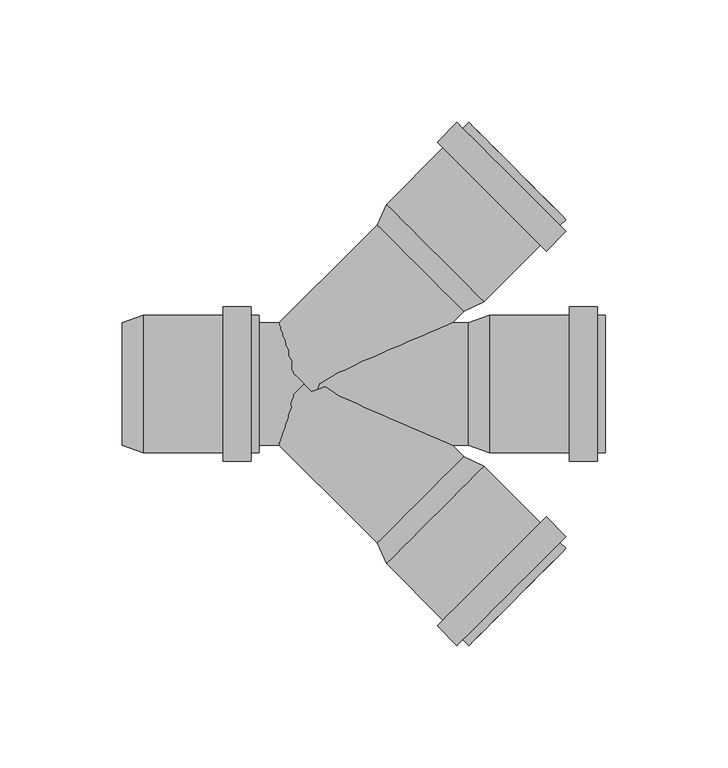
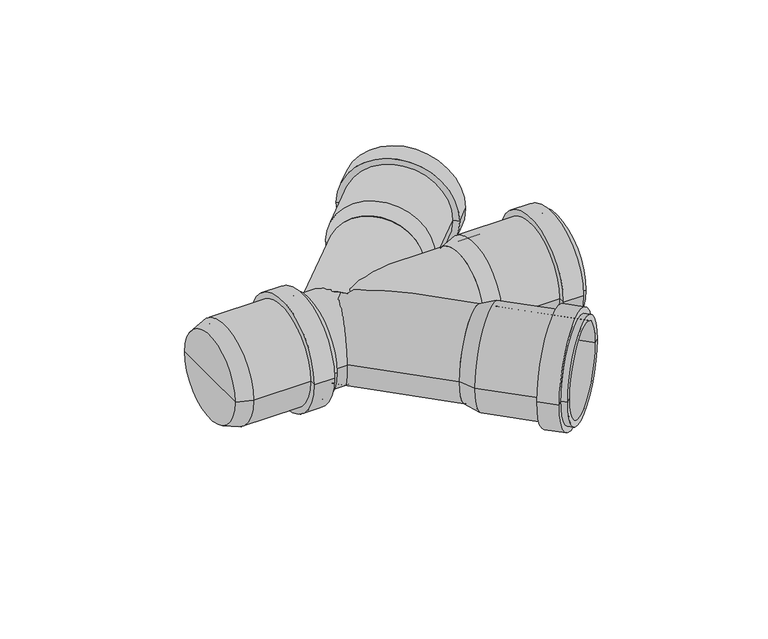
"""IFC4 building model written with IfcOpenShell, lengths in millimetres: pipe fitting geometry, pf_HTDA : pf_HTDA."""

from ifc_helpers import new_model, si_unit, point, frame, origin, origin_2d, place, context, project, spatial, polyline, circle_curve, trimmed, segment, composite_curve, outline, extrude, source, transform, mapped, element, save
from ifc_brep_helpers import plane_surface, cylinder_surface, revolved_surface, advanced_brep


def pipe_fitting_60c93445(model_context):
    return source(origin(), model_context, "Body", "SolidModel", [
        advanced_brep(
        [(65.1245345, 29.7691955, 0.0), (29.7691955, 65.1245345, 0.0), (33.5875721, 73.3269732, 0.0), (73.3269732, 33.5875721, 0.0), (47.446865, 47.446865, 0.0), (106.9145453, 67.1751442, 0.0), (67.1751442, 106.9145453, 0.0), (69.3671752, 104.7225143, 0.0), (104.7225143, 69.3671752, 0.0), (104.5103823, 64.7709812, 0.0), (64.7709812, 104.5103823, 0.0), (106.9145453, 62.3668181, 0.0), (62.3668181, 106.9145453, 0.0), (98.853528, 54.3058008, 0.0), (54.3058008, 98.853528, 0.0), (96.449365, 56.7099639, 0.0), (56.7099639, 96.449365, 0.0), (71.1349422, 35.7796031, 0.0), (35.7796031, 71.1349422, 0.0), (53.4572727, 53.4572727, 0.0)],
        [
            (0, 1, circle_curve(frame((47.446865, 47.446865, 0.0), z_axis=(0.707106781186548, 0.707106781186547, 0.0), x_axis=(-0.707106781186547, 0.707106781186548, 0.0)), 25.0)),
            (1, 2),
            (2, 3, circle_curve(frame((53.4572727, 53.4572727, 0.0), z_axis=(-0.707106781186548, -0.707106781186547, 0.0), x_axis=(-0.707106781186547, 0.707106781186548, 0.0)), 28.1)),
            (3, 0),
            (1, 0, circle_curve(frame((47.446865, 47.446865, 0.0), z_axis=(0.707106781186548, 0.707106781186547, 0.0), x_axis=(-0.707106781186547, 0.707106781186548, 0.0)), 25.0)),
            (3, 2, circle_curve(frame((53.4572727, 53.4572727, 0.0), z_axis=(-0.707106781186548, -0.707106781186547, 0.0), x_axis=(-0.707106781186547, 0.707106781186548, 0.0)), 28.1)),
            (4, 1),
            (0, 4),
            (5, 6, circle_curve(frame((87.0448448, 87.0448448, 0.0), z_axis=(0.707106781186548, 0.707106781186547, 0.0), x_axis=(-0.707106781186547, 0.707106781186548, 0.0)), 28.1)),
            (6, 7),
            (7, 8, circle_curve(frame((87.0448448, 87.0448448, 0.0), z_axis=(-0.707106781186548, -0.707106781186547, 0.0), x_axis=(-0.707106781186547, 0.707106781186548, 0.0)), 25.0)),
            (8, 5),
            (6, 5, circle_curve(frame((87.0448448, 87.0448448, 0.0), z_axis=(0.707106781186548, 0.707106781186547, 0.0), x_axis=(-0.707106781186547, 0.707106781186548, 0.0)), 28.1)),
            (8, 7, circle_curve(frame((87.0448448, 87.0448448, 0.0), z_axis=(-0.707106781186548, -0.707106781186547, 0.0), x_axis=(-0.707106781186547, 0.707106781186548, 0.0)), 25.0)),
            (9, 10, circle_curve(frame((84.6406817, 84.6406817, 0.0), z_axis=(0.707106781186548, 0.707106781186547, 0.0), x_axis=(-0.707106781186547, 0.707106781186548, 0.0)), 28.1)),
            (10, 6),
            (5, 9),
            (10, 9, circle_curve(frame((84.6406817, 84.6406817, 0.0), z_axis=(0.707106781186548, 0.707106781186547, 0.0), x_axis=(-0.707106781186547, 0.707106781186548, 0.0)), 28.1)),
            (11, 12, circle_curve(frame((84.6406817, 84.6406817, 0.0), z_axis=(0.707106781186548, 0.707106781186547, 0.0), x_axis=(-0.707106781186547, 0.707106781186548, 0.0)), 31.5)),
            (12, 10),
            (9, 11),
            (12, 11, circle_curve(frame((84.6406817, 84.6406817, 0.0), z_axis=(0.707106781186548, 0.707106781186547, 0.0), x_axis=(-0.707106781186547, 0.707106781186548, 0.0)), 31.5)),
            (13, 14, circle_curve(frame((76.5796644, 76.5796644, 0.0), z_axis=(0.707106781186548, 0.707106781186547, 0.0), x_axis=(-0.707106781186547, 0.707106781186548, 0.0)), 31.5)),
            (14, 12),
            (11, 13),
            (14, 13, circle_curve(frame((76.5796644, 76.5796644, 0.0), z_axis=(0.707106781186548, 0.707106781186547, 0.0), x_axis=(-0.707106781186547, 0.707106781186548, 0.0)), 31.5)),
            (15, 16, circle_curve(frame((76.5796644, 76.5796644, 0.0), z_axis=(0.707106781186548, 0.707106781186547, 0.0), x_axis=(-0.707106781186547, 0.707106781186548, 0.0)), 28.1)),
            (16, 14),
            (13, 15),
            (16, 15, circle_curve(frame((76.5796644, 76.5796644, 0.0), z_axis=(0.707106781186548, 0.707106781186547, 0.0), x_axis=(-0.707106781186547, 0.707106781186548, 0.0)), 28.1)),
            (2, 16),
            (15, 3),
            (17, 18, circle_curve(frame((53.4572727, 53.4572727, 0.0), z_axis=(0.707106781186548, 0.707106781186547, 0.0), x_axis=(-0.707106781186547, 0.707106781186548, 0.0)), 25.0)),
            (18, 19),
            (19, 17),
            (18, 17, circle_curve(frame((53.4572727, 53.4572727, 0.0), z_axis=(0.707106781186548, 0.707106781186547, 0.0), x_axis=(-0.707106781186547, 0.707106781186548, 0.0)), 25.0)),
            (7, 18),
            (17, 8),
        ],
        [
            revolved_surface(polyline([(33.5875721, 73.3269732, 0.0), (29.7691955, 65.1245345, 0.0)]), (47.446865, 47.446865, 0.0), (-0.707106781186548, -0.707106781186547, 0.0)),
            plane_surface(frame((47.446865, 47.446865, 0.0), z_axis=(-0.707106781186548, -0.707106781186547, 0.0), x_axis=(-0.707106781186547, 0.707106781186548, 0.0))),
            plane_surface(frame((87.0448448, 87.0448448, 0.0), z_axis=(0.707106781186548, 0.707106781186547, 0.0), x_axis=(-0.707106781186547, 0.707106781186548, 0.0))),
            cylinder_surface(frame((47.446865, 47.446865, 0.0), z_axis=(-0.707106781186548, -0.707106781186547, 0.0), x_axis=(-0.707106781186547, 0.707106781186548, 0.0)), 28.1),
            plane_surface(frame((84.6406817, 84.6406817, 0.0), z_axis=(0.707106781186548, 0.707106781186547, 0.0), x_axis=(-0.707106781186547, 0.707106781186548, 0.0))),
            cylinder_surface(frame((47.446865, 47.446865, 0.0), z_axis=(-0.707106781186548, -0.707106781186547, 0.0), x_axis=(-0.707106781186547, 0.707106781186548, 0.0)), 31.5),
            plane_surface(frame((76.5796644, 76.5796644, 0.0), z_axis=(-0.707106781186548, -0.707106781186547, 0.0), x_axis=(-0.707106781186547, 0.707106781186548, 0.0))),
            plane_surface(frame((53.4572727, 53.4572727, 0.0), z_axis=(0.707106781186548, 0.707106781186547, 0.0), x_axis=(-0.707106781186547, 0.707106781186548, 0.0))),
            revolved_surface(polyline([(35.77960312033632, 71.13494217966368, 0.0), (69.36717527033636, 104.72251432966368, 0.0)]), (47.446865, 47.446865, 0.0), (-0.707106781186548, -0.707106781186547, 0.0)),
        ],
        [
            (0, [[1, 2, 3, 4]]),
            (0, [[5, -4, 6, -2]]),
            (1, [[7, -1, 8]]),
            (1, [[-8, -5, -7]]),
            (2, [[9, 10, 11, 12]]),
            (2, [[13, -12, 14, -10]]),
            (3, [[15, 16, -9, 17]]),
            (3, [[18, -17, -13, -16]]),
            (4, [[19, 20, -15, 21]]),
            (4, [[22, -21, -18, -20]]),
            (5, [[23, 24, -19, 25]]),
            (5, [[26, -25, -22, -24]]),
            (6, [[27, 28, -23, 29]]),
            (6, [[30, -29, -26, -28]]),
            (3, [[-3, 31, -27, 32]]),
            (3, [[-6, -32, -30, -31]]),
            (7, [[33, 34, 35]]),
            (7, [[36, -35, -34]]),
            (8, [[-11, 37, -33, 38]]),
            (8, [[-14, -38, -36, -37]]),
        ],
    ),
        advanced_brep(
        [(29.7691955, -65.1245345, 0.0), (65.1245345, -29.7691955, 0.0), (73.3269732, -33.5875721, 0.0), (33.5875721, -73.3269732, 0.0), (47.446865, -47.446865, 0.0), (67.1751442, -106.9145453, 0.0), (106.9145453, -67.1751442, 0.0), (104.7225143, -69.3671752, 0.0), (69.3671752, -104.7225143, 0.0), (64.7709812, -104.5103823, 0.0), (104.5103823, -64.7709812, 0.0), (62.3668181, -106.9145453, 0.0), (106.9145453, -62.3668181, 0.0), (54.3058008, -98.853528, 0.0), (98.853528, -54.3058008, 0.0), (56.7099639, -96.449365, 0.0), (96.449365, -56.7099639, 0.0), (35.7796031, -71.1349422, 0.0), (71.1349422, -35.7796031, 0.0), (53.4572727, -53.4572727, 0.0)],
        [
            (0, 1, circle_curve(frame((47.446865, -47.446865, 0.0), z_axis=(0.7071067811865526, -0.7071067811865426, 0.0), x_axis=(0.7071067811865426, 0.7071067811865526, 0.0)), 25.0)),
            (1, 2),
            (2, 3, circle_curve(frame((53.4572727, -53.4572727, 0.0), z_axis=(-0.7071067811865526, 0.7071067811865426, 0.0), x_axis=(0.7071067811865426, 0.7071067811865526, 0.0)), 28.1)),
            (3, 0),
            (1, 0, circle_curve(frame((47.446865, -47.446865, 0.0), z_axis=(0.7071067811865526, -0.7071067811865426, 0.0), x_axis=(0.7071067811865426, 0.7071067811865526, 0.0)), 25.0)),
            (3, 2, circle_curve(frame((53.4572727, -53.4572727, 0.0), z_axis=(-0.7071067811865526, 0.7071067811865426, 0.0), x_axis=(0.7071067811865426, 0.7071067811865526, 0.0)), 28.1)),
            (4, 1),
            (0, 4),
            (5, 6, circle_curve(frame((87.0448448, -87.0448448, 0.0), z_axis=(0.7071067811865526, -0.7071067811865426, 0.0), x_axis=(0.7071067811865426, 0.7071067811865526, 0.0)), 28.1)),
            (6, 7),
            (7, 8, circle_curve(frame((87.0448448, -87.0448448, 0.0), z_axis=(-0.7071067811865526, 0.7071067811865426, 0.0), x_axis=(0.7071067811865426, 0.7071067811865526, 0.0)), 25.0)),
            (8, 5),
            (6, 5, circle_curve(frame((87.0448448, -87.0448448, 0.0), z_axis=(0.7071067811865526, -0.7071067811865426, 0.0), x_axis=(0.7071067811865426, 0.7071067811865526, 0.0)), 28.1)),
            (8, 7, circle_curve(frame((87.0448448, -87.0448448, 0.0), z_axis=(-0.7071067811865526, 0.7071067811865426, 0.0), x_axis=(0.7071067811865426, 0.7071067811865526, 0.0)), 25.0)),
            (9, 10, circle_curve(frame((84.6406817, -84.6406817, 0.0), z_axis=(0.7071067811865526, -0.7071067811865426, 0.0), x_axis=(0.7071067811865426, 0.7071067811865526, 0.0)), 28.1)),
            (10, 6),
            (5, 9),
            (10, 9, circle_curve(frame((84.6406817, -84.6406817, 0.0), z_axis=(0.7071067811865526, -0.7071067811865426, 0.0), x_axis=(0.7071067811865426, 0.7071067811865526, 0.0)), 28.1)),
            (11, 12, circle_curve(frame((84.6406817, -84.6406817, 0.0), z_axis=(0.7071067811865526, -0.7071067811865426, 0.0), x_axis=(0.7071067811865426, 0.7071067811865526, 0.0)), 31.5)),
            (12, 10),
            (9, 11),
            (12, 11, circle_curve(frame((84.6406817, -84.6406817, 0.0), z_axis=(0.7071067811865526, -0.7071067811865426, 0.0), x_axis=(0.7071067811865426, 0.7071067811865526, 0.0)), 31.5)),
            (13, 14, circle_curve(frame((76.5796644, -76.5796644, 0.0), z_axis=(0.7071067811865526, -0.7071067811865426, 0.0), x_axis=(0.7071067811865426, 0.7071067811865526, 0.0)), 31.5)),
            (14, 12),
            (11, 13),
            (14, 13, circle_curve(frame((76.5796644, -76.5796644, 0.0), z_axis=(0.7071067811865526, -0.7071067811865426, 0.0), x_axis=(0.7071067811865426, 0.7071067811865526, 0.0)), 31.5)),
            (15, 16, circle_curve(frame((76.5796644, -76.5796644, 0.0), z_axis=(0.7071067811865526, -0.7071067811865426, 0.0), x_axis=(0.7071067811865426, 0.7071067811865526, 0.0)), 28.1)),
            (16, 14),
            (13, 15),
            (16, 15, circle_curve(frame((76.5796644, -76.5796644, 0.0), z_axis=(0.7071067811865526, -0.7071067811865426, 0.0), x_axis=(0.7071067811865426, 0.7071067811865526, 0.0)), 28.1)),
            (2, 16),
            (15, 3),
            (17, 18, circle_curve(frame((53.4572727, -53.4572727, 0.0), z_axis=(0.7071067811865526, -0.7071067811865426, 0.0), x_axis=(0.7071067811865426, 0.7071067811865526, 0.0)), 25.0)),
            (18, 19),
            (19, 17),
            (18, 17, circle_curve(frame((53.4572727, -53.4572727, 0.0), z_axis=(0.7071067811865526, -0.7071067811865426, 0.0), x_axis=(0.7071067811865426, 0.7071067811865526, 0.0)), 25.0)),
            (7, 18),
            (17, 8),
        ],
        [
            revolved_surface(polyline([(73.3269732, -33.5875721, 0.0), (65.1245345, -29.7691955, 0.0)]), (47.446865, -47.446865, 0.0), (-0.7071067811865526, 0.7071067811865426, 0.0)),
            plane_surface(frame((47.446865, -47.446865, 0.0), z_axis=(-0.7071067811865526, 0.7071067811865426, 0.0), x_axis=(0.7071067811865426, 0.7071067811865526, 0.0))),
            plane_surface(frame((87.0448448, -87.0448448, 0.0), z_axis=(0.7071067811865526, -0.7071067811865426, 0.0), x_axis=(0.7071067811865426, 0.7071067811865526, 0.0))),
            cylinder_surface(frame((47.446865, -47.446865, 0.0), z_axis=(-0.7071067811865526, 0.7071067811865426, 0.0), x_axis=(0.7071067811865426, 0.7071067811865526, 0.0)), 28.1),
            plane_surface(frame((84.6406817, -84.6406817, 0.0), z_axis=(0.7071067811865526, -0.7071067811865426, 0.0), x_axis=(0.7071067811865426, 0.7071067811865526, 0.0))),
            cylinder_surface(frame((47.446865, -47.446865, 0.0), z_axis=(-0.7071067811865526, 0.7071067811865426, 0.0), x_axis=(0.7071067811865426, 0.7071067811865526, 0.0)), 31.5),
            plane_surface(frame((76.5796644, -76.5796644, 0.0), z_axis=(-0.7071067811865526, 0.7071067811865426, 0.0), x_axis=(0.7071067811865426, 0.7071067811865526, 0.0))),
            plane_surface(frame((53.4572727, -53.4572727, 0.0), z_axis=(0.7071067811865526, -0.7071067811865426, 0.0), x_axis=(0.7071067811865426, 0.7071067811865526, 0.0))),
            revolved_surface(polyline([(71.13494217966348, -35.77960312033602, 0.0), (104.72251432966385, -69.36717527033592, 0.0)]), (47.446865, -47.446865, 0.0), (-0.7071067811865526, 0.7071067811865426, 0.0)),
        ],
        [
            (0, [[1, 2, 3, 4]]),
            (0, [[5, -4, 6, -2]]),
            (1, [[7, -1, 8]]),
            (1, [[-8, -5, -7]]),
            (2, [[9, 10, 11, 12]]),
            (2, [[13, -12, 14, -10]]),
            (3, [[15, 16, -9, 17]]),
            (3, [[18, -17, -13, -16]]),
            (4, [[19, 20, -15, 21]]),
            (4, [[22, -21, -18, -20]]),
            (5, [[23, 24, -19, 25]]),
            (5, [[26, -25, -22, -24]]),
            (6, [[27, 28, -23, 29]]),
            (6, [[30, -29, -26, -28]]),
            (3, [[-3, 31, -27, 32]]),
            (3, [[-6, -32, -30, -31]]),
            (7, [[33, 34, 35]]),
            (7, [[36, -35, -34]]),
            (8, [[-11, 37, -33, 38]]),
            (8, [[-14, -38, -36, -37]]),
        ],
    ),
        advanced_brep(
        [(67.1, -25.0, 0.0), (67.1, 25.0, 0.0), (75.6, 28.1, 0.0), (75.6, -28.1, 0.0), (67.1, 0.0, 0.0), (123.1, -28.1, 0.0), (123.1, 28.1, 0.0), (123.1, 25.0, 0.0), (123.1, -25.0, 0.0), (119.7, -28.1, 0.0), (119.7, 28.1, 0.0), (119.7, -31.5, 0.0), (119.7, 31.5, 0.0), (108.3, -31.5, 0.0), (108.3, 31.5, 0.0), (108.3, -28.1, 0.0), (108.3, 28.1, 0.0), (75.6, -25.0, 0.0), (75.6, 25.0, 0.0), (75.6, 0.0, 0.0)],
        [
            (0, 1, circle_curve(frame((67.1, 0.0, 0.0), z_axis=(1.0, 0.0, 0.0), x_axis=(0.0, 1.0, 0.0)), 25.0)),
            (1, 2),
            (2, 3, circle_curve(frame((75.6, 0.0, 0.0), z_axis=(-1.0, 0.0, 0.0), x_axis=(0.0, 1.0, 0.0)), 28.1)),
            (3, 0),
            (1, 0, circle_curve(frame((67.1, 0.0, 0.0), z_axis=(1.0, 0.0, 0.0), x_axis=(0.0, 1.0, 0.0)), 25.0)),
            (3, 2, circle_curve(frame((75.6, 0.0, 0.0), z_axis=(-1.0, 0.0, 0.0), x_axis=(0.0, 1.0, 0.0)), 28.1)),
            (4, 1),
            (0, 4),
            (5, 6, circle_curve(frame((123.1, 0.0, 0.0), z_axis=(1.0, 0.0, 0.0), x_axis=(0.0, 1.0, 0.0)), 28.1)),
            (6, 7),
            (7, 8, circle_curve(frame((123.1, 0.0, 0.0), z_axis=(-1.0, 0.0, 0.0), x_axis=(0.0, 1.0, 0.0)), 25.0)),
            (8, 5),
            (6, 5, circle_curve(frame((123.1, 0.0, 0.0), z_axis=(1.0, 0.0, 0.0), x_axis=(0.0, 1.0, 0.0)), 28.1)),
            (8, 7, circle_curve(frame((123.1, 0.0, 0.0), z_axis=(-1.0, 0.0, 0.0), x_axis=(0.0, 1.0, 0.0)), 25.0)),
            (9, 10, circle_curve(frame((119.7, 0.0, 0.0), z_axis=(1.0, 0.0, 0.0), x_axis=(0.0, 1.0, 0.0)), 28.1)),
            (10, 6),
            (5, 9),
            (10, 9, circle_curve(frame((119.7, 0.0, 0.0), z_axis=(1.0, 0.0, 0.0), x_axis=(0.0, 1.0, 0.0)), 28.1)),
            (11, 12, circle_curve(frame((119.7, 0.0, 0.0), z_axis=(1.0, 0.0, 0.0), x_axis=(0.0, 1.0, 0.0)), 31.5)),
            (12, 10),
            (9, 11),
            (12, 11, circle_curve(frame((119.7, 0.0, 0.0), z_axis=(1.0, 0.0, 0.0), x_axis=(0.0, 1.0, 0.0)), 31.5)),
            (13, 14, circle_curve(frame((108.3, 0.0, 0.0), z_axis=(1.0, 0.0, 0.0), x_axis=(0.0, 1.0, 0.0)), 31.5)),
            (14, 12),
            (11, 13),
            (14, 13, circle_curve(frame((108.3, 0.0, 0.0), z_axis=(1.0, 0.0, 0.0), x_axis=(0.0, 1.0, 0.0)), 31.5)),
            (15, 16, circle_curve(frame((108.3, 0.0, 0.0), z_axis=(1.0, 0.0, 0.0), x_axis=(0.0, 1.0, 0.0)), 28.1)),
            (16, 14),
            (13, 15),
            (16, 15, circle_curve(frame((108.3, 0.0, 0.0), z_axis=(1.0, 0.0, 0.0), x_axis=(0.0, 1.0, 0.0)), 28.1)),
            (2, 16),
            (15, 3),
            (17, 18, circle_curve(frame((75.6, 0.0, 0.0), z_axis=(1.0, 0.0, 0.0), x_axis=(0.0, 1.0, 0.0)), 25.0)),
            (18, 19),
            (19, 17),
            (18, 17, circle_curve(frame((75.6, 0.0, 0.0), z_axis=(1.0, 0.0, 0.0), x_axis=(0.0, 1.0, 0.0)), 25.0)),
            (7, 18),
            (17, 8),
        ],
        [
            revolved_surface(polyline([(75.6, 28.1, 0.0), (67.1, 25.0, 0.0)]), (67.1, 0.0, 0.0), (-1.0, 0.0, 0.0)),
            plane_surface(frame((67.1, 0.0, 0.0), z_axis=(-1.0, 0.0, 0.0), x_axis=(0.0, 1.0, 0.0))),
            plane_surface(frame((123.1, 0.0, 0.0), z_axis=(1.0, 0.0, 0.0), x_axis=(0.0, 1.0, 0.0))),
            cylinder_surface(frame((67.1, 0.0, 0.0), z_axis=(-1.0, 0.0, 0.0), x_axis=(0.0, 1.0, 0.0)), 28.1),
            plane_surface(frame((119.7, 0.0, 0.0), z_axis=(1.0, 0.0, 0.0), x_axis=(0.0, 1.0, 0.0))),
            cylinder_surface(frame((67.1, 0.0, 0.0), z_axis=(-1.0, 0.0, 0.0), x_axis=(0.0, 1.0, 0.0)), 31.5),
            plane_surface(frame((108.3, 0.0, 0.0), z_axis=(-1.0, 0.0, 0.0), x_axis=(0.0, 1.0, 0.0))),
            plane_surface(frame((75.6, 0.0, 0.0), z_axis=(1.0, 0.0, 0.0), x_axis=(0.0, 1.0, 0.0))),
            revolved_surface(polyline([(75.6, 25.0, 0.0), (123.1, 25.0, 0.0)]), (67.1, 0.0, 0.0), (-1.0, 0.0, 0.0)),
        ],
        [
            (0, [[1, 2, 3, 4]]),
            (0, [[5, -4, 6, -2]]),
            (1, [[7, -1, 8]]),
            (1, [[-8, -5, -7]]),
            (2, [[9, 10, 11, 12]]),
            (2, [[13, -12, 14, -10]]),
            (3, [[15, 16, -9, 17]]),
            (3, [[18, -17, -13, -16]]),
            (4, [[19, 20, -15, 21]]),
            (4, [[22, -21, -18, -20]]),
            (5, [[23, 24, -19, 25]]),
            (5, [[26, -25, -22, -24]]),
            (6, [[27, 28, -23, 29]]),
            (6, [[30, -29, -26, -28]]),
            (3, [[-3, 31, -27, 32]]),
            (3, [[-6, -32, -30, -31]]),
            (7, [[33, 34, 35]]),
            (7, [[36, -35, -34]]),
            (8, [[-11, 37, -33, 38]]),
            (8, [[-14, -38, -36, -37]]),
        ],
    ),
        advanced_brep(
        [(-74.5, -25.0, 0.0), (-74.5, 25.0, 0.0), (-66.0, 28.1, 0.0), (-66.0, -28.1, 0.0), (-74.5, 0.0, 0.0), (-18.5, -28.1, 0.0), (-18.5, 28.1, 0.0), (-18.5, 25.0, 0.0), (-18.5, -25.0, 0.0), (-21.9, -28.1, 0.0), (-21.9, 28.1, 0.0), (-21.9, -31.5, 0.0), (-21.9, 31.5, 0.0), (-33.3, -31.5, 0.0), (-33.3, 31.5, 0.0), (-33.3, -28.1, 0.0), (-33.3, 28.1, 0.0), (-66.0, -25.0, 0.0), (-66.0, 25.0, 0.0), (-66.0, 0.0, 0.0)],
        [
            (0, 1, circle_curve(frame((-74.5, 0.0, 0.0), z_axis=(1.0, 0.0, 0.0), x_axis=(0.0, 1.0, 0.0)), 25.0)),
            (1, 2),
            (2, 3, circle_curve(frame((-66.0, 0.0, 0.0), z_axis=(-1.0, 0.0, 0.0), x_axis=(0.0, 1.0, 0.0)), 28.1)),
            (3, 0),
            (1, 0, circle_curve(frame((-74.5, 0.0, 0.0), z_axis=(1.0, 0.0, 0.0), x_axis=(0.0, 1.0, 0.0)), 25.0)),
            (3, 2, circle_curve(frame((-66.0, 0.0, 0.0), z_axis=(-1.0, 0.0, 0.0), x_axis=(0.0, 1.0, 0.0)), 28.1)),
            (4, 1),
            (0, 4),
            (5, 6, circle_curve(frame((-18.5, 0.0, 0.0), z_axis=(1.0, 0.0, 0.0), x_axis=(0.0, 1.0, 0.0)), 28.1)),
            (6, 7),
            (7, 8, circle_curve(frame((-18.5, 0.0, 0.0), z_axis=(-1.0, 0.0, 0.0), x_axis=(0.0, 1.0, 0.0)), 25.0)),
            (8, 5),
            (6, 5, circle_curve(frame((-18.5, 0.0, 0.0), z_axis=(1.0, 0.0, 0.0), x_axis=(0.0, 1.0, 0.0)), 28.1)),
            (8, 7, circle_curve(frame((-18.5, 0.0, 0.0), z_axis=(-1.0, 0.0, 0.0), x_axis=(0.0, 1.0, 0.0)), 25.0)),
            (9, 10, circle_curve(frame((-21.9, 0.0, 0.0), z_axis=(1.0, 0.0, 0.0), x_axis=(0.0, 1.0, 0.0)), 28.1)),
            (10, 6),
            (5, 9),
            (10, 9, circle_curve(frame((-21.9, 0.0, 0.0), z_axis=(1.0, 0.0, 0.0), x_axis=(0.0, 1.0, 0.0)), 28.1)),
            (11, 12, circle_curve(frame((-21.9, 0.0, 0.0), z_axis=(1.0, 0.0, 0.0), x_axis=(0.0, 1.0, 0.0)), 31.5)),
            (12, 10),
            (9, 11),
            (12, 11, circle_curve(frame((-21.9, 0.0, 0.0), z_axis=(1.0, 0.0, 0.0), x_axis=(0.0, 1.0, 0.0)), 31.5)),
            (13, 14, circle_curve(frame((-33.3, 0.0, 0.0), z_axis=(1.0, 0.0, 0.0), x_axis=(0.0, 1.0, 0.0)), 31.5)),
            (14, 12),
            (11, 13),
            (14, 13, circle_curve(frame((-33.3, 0.0, 0.0), z_axis=(1.0, 0.0, 0.0), x_axis=(0.0, 1.0, 0.0)), 31.5)),
            (15, 16, circle_curve(frame((-33.3, 0.0, 0.0), z_axis=(1.0, 0.0, 0.0), x_axis=(0.0, 1.0, 0.0)), 28.1)),
            (16, 14),
            (13, 15),
            (16, 15, circle_curve(frame((-33.3, 0.0, 0.0), z_axis=(1.0, 0.0, 0.0), x_axis=(0.0, 1.0, 0.0)), 28.1)),
            (2, 16),
            (15, 3),
            (17, 18, circle_curve(frame((-66.0, 0.0, 0.0), z_axis=(1.0, 0.0, 0.0), x_axis=(0.0, 1.0, 0.0)), 25.0)),
            (18, 19),
            (19, 17),
            (18, 17, circle_curve(frame((-66.0, 0.0, 0.0), z_axis=(1.0, 0.0, 0.0), x_axis=(0.0, 1.0, 0.0)), 25.0)),
            (7, 18),
            (17, 8),
        ],
        [
            revolved_surface(polyline([(-66.0, 28.1, 0.0), (-74.5, 25.0, 0.0)]), (-74.5, 0.0, 0.0), (-1.0, 0.0, 0.0)),
            plane_surface(frame((-74.5, 0.0, 0.0), z_axis=(-1.0, 0.0, 0.0), x_axis=(0.0, 1.0, 0.0))),
            plane_surface(frame((-18.5, 0.0, 0.0), z_axis=(1.0, 0.0, 0.0), x_axis=(0.0, 1.0, 0.0))),
            cylinder_surface(frame((-74.5, 0.0, 0.0), z_axis=(-1.0, 0.0, 0.0), x_axis=(0.0, 1.0, 0.0)), 28.1),
            plane_surface(frame((-21.9, 0.0, 0.0), z_axis=(1.0, 0.0, 0.0), x_axis=(0.0, 1.0, 0.0))),
            cylinder_surface(frame((-74.5, 0.0, 0.0), z_axis=(-1.0, 0.0, 0.0), x_axis=(0.0, 1.0, 0.0)), 31.5),
            plane_surface(frame((-33.3, 0.0, 0.0), z_axis=(-1.0, 0.0, 0.0), x_axis=(0.0, 1.0, 0.0))),
            plane_surface(frame((-66.0, 0.0, 0.0), z_axis=(1.0, 0.0, 0.0), x_axis=(0.0, 1.0, 0.0))),
            revolved_surface(polyline([(-66.0, 25.0, 0.0), (-18.5, 25.0, 0.0)]), (-74.5, 0.0, 0.0), (-1.0, 0.0, 0.0)),
        ],
        [
            (0, [[1, 2, 3, 4]]),
            (0, [[5, -4, 6, -2]]),
            (1, [[7, -1, 8]]),
            (1, [[-8, -5, -7]]),
            (2, [[9, 10, 11, 12]]),
            (2, [[13, -12, 14, -10]]),
            (3, [[15, 16, -9, 17]]),
            (3, [[18, -17, -13, -16]]),
            (4, [[19, 20, -15, 21]]),
            (4, [[22, -21, -18, -20]]),
            (5, [[23, 24, -19, 25]]),
            (5, [[26, -25, -22, -24]]),
            (6, [[27, 28, -23, 29]]),
            (6, [[30, -29, -26, -28]]),
            (3, [[-3, 31, -27, 32]]),
            (3, [[-6, -32, -30, -31]]),
            (7, [[33, 34, 35]]),
            (7, [[36, -35, -34]]),
            (8, [[-11, 37, -33, 38]]),
            (8, [[-14, -38, -36, -37]]),
        ],
    ),
        extrude(outline(composite_curve([segment(trimmed(circle_curve(origin_2d(), 25.0), [point((0.0, 25.0))], [point((0.0, -25.0))], False, "CARTESIAN"), True, "CONTINUOUS"), segment(trimmed(circle_curve(origin_2d(), 25.0), [point((0.0, -25.0))], [point((0.0, 25.0))], False, "CARTESIAN"), True, "CONTINUOUS")], self_intersect=False)), frame((0.0, 0.0, 0.0), z_axis=(0.7071067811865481, 0.707106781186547, 0.0), x_axis=(0.0, 0.0, 1.0)), (0.0, 0.0, 1.0), 67.1),
        extrude(outline(composite_curve([segment(trimmed(circle_curve(origin_2d(), 25.0), [point((0.0, -25.0))], [point((0.0, 25.0))], False, "CARTESIAN"), True, "CONTINUOUS"), segment(trimmed(circle_curve(origin_2d(), 25.0), [point((0.0, 25.0))], [point((0.0, -25.0))], False, "CARTESIAN"), True, "CONTINUOUS")], self_intersect=False)), frame((47.446865, -47.446865, 0.0), z_axis=(-0.7071067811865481, 0.7071067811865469, 0.0), x_axis=(0.0, 0.0, 1.0)), (0.0, 0.0, 1.0), 67.1),
        extrude(outline(composite_curve([segment(trimmed(circle_curve(origin_2d(), 25.0), [point((-25.0, 0.0))], [point((25.0, 0.0))], False, "CARTESIAN"), True, "CONTINUOUS"), segment(trimmed(circle_curve(origin_2d(), 25.0), [point((25.0, 0.0))], [point((-25.0, 0.0))], False, "CARTESIAN"), True, "CONTINUOUS")], self_intersect=False)), frame((-66.0, 0.0, 0.0), z_axis=(1.0, 0.0, 0.0), x_axis=(0.0, 1.0, 0.0)), (0.0, 0.0, 1.0), 133.1),
    ])


if __name__ == "__main__":
    model = new_model("IFC4")
    model_context = context("Model", 3, world=origin())
    ifc_project = project(units=[si_unit("LENGTHUNIT", "METRE", prefix="MILLI")], contexts=[model_context])
    site = spatial("IfcSite", under=ifc_project)
    building = spatial("IfcBuilding", under=site)
    placement = place(None, origin())
    pipe_fitting_shape = pipe_fitting_60c93445(model_context)
    element("IfcPipeFitting", 1, ObjectType="pf_HTDA : pf_HTDA", at=placement, inside=building, context=model_context, shape_type="MappedRepresentation", body=[
        mapped(pipe_fitting_shape, transform((0.0, 0.0, 0.0), x_axis=(1.0, 0.0, 0.0), y_axis=(0.0, 1.0, 0.0), z_axis=(0.0, 0.0, 1.0))),
    ])
    save(model, "model.ifc")
